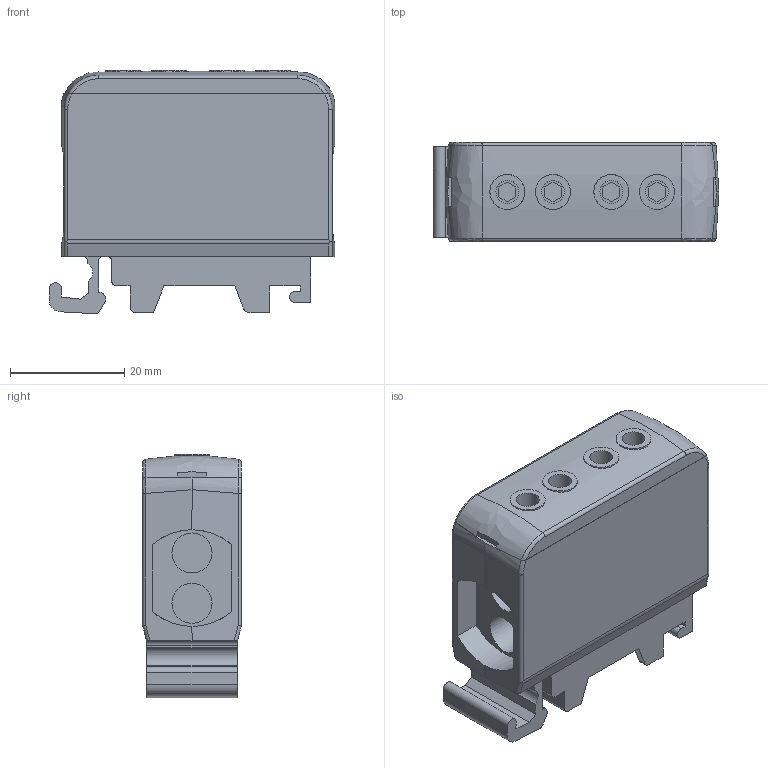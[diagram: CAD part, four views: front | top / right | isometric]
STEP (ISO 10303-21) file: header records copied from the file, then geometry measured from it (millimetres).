
FILE_DESCRIPTION(/* description */ ('Unknown'),/* implementation_level */ '2;1');
FILE_NAME(/* name */ 'utb 2x16',/* time_stamp */ '2021-04-01T13:11:41+02:00',/* author */ ('Unknown'),/* organization */ ('Unknown'),/* preprocessor_version */ 'ST-DEVELOPER v16.7',/* originating_system */ 'Solid Edge',/* authorisation */ 'Unknown');
FILE_SCHEMA (('AUTOMOTIVE_DESIGN {1 0 10303 214 3 1 1}'));
Length unit declared in the file: millimetre
Products named in the file (1): utb 2x16
Bounding box: 49.95 x 17.3 x 42.57 mm (x, y, z)
Volume: 24615.2 mm3; surface area: 9385.6 mm2
Topology: 1 solids, 1 shells, 181 faces, 455 edges, 292 vertices
Faces by surface type: plane 124, cylinder 47, bspline 10
Full cylindrical faces by diameter (mm): 4 x4, 6.1 x4, 7 x4
Entity records: 5291 total; most frequent: CARTESIAN_POINT 1153, ORIENTED_EDGE 850, DIRECTION 831, EDGE_CURVE 425, VERTEX_POINT 282, AXIS2_PLACEMENT_3D 278, LINE 275, VECTOR 275
